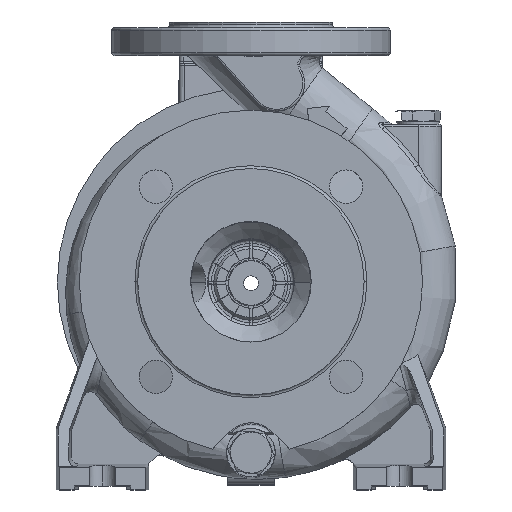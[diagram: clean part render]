
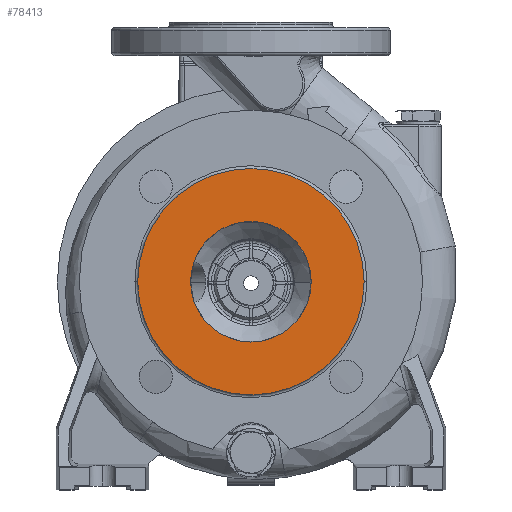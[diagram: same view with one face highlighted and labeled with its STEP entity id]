
A CAD part, top view. The second image highlights one B-rep face of the part: STEP entity #78413.
In plain terms, the highlighted planar face has unit normal (0, 0, 1).
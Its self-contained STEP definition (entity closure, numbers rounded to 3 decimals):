
#2227 = EDGE_CURVE ( 'NONE', #63455, #110201, #133647, .T. ) ;
#2653 = AXIS2_PLACEMENT_3D ( 'NONE', #82972, #14539, #105534 ) ;
#3240 = ORIENTED_EDGE ( 'NONE', *, *, #146895, .T. ) ;
#10608 = DIRECTION ( 'NONE',  ( 0., 0., 1. ) ) ;
#13838 = EDGE_LOOP ( 'NONE', ( #75555, #20204 ) ) ;
#14539 = DIRECTION ( 'NONE',  ( 0., 0., 1. ) ) ;
#17030 = FACE_BOUND ( 'NONE', #13838, .T. ) ;
#20204 = ORIENTED_EDGE ( 'NONE', *, *, #58081, .T. ) ;
#20432 = CARTESIAN_POINT ( 'NONE',  ( 32.5, 0., 80. ) ) ;
#32652 = CIRCLE ( 'NONE', #144515, 61. ) ;
#35437 = VERTEX_POINT ( 'NONE', #52107 ) ;
#42659 = AXIS2_PLACEMENT_3D ( 'NONE', #103201, #92153, #115680 ) ;
#46107 = DIRECTION ( 'NONE',  ( 1., 0., 0. ) ) ;
#48954 = CARTESIAN_POINT ( 'NONE',  ( 0., 0., 80. ) ) ;
#49820 = AXIS2_PLACEMENT_3D ( 'NONE', #48954, #71837, #58962 ) ;
#52107 = CARTESIAN_POINT ( 'NONE',  ( -61., 0., 80. ) ) ;
#54060 = CARTESIAN_POINT ( 'NONE',  ( -32.5, 0., 80. ) ) ;
#58081 = EDGE_CURVE ( 'NONE', #110201, #63455, #125170, .T. ) ;
#58962 = DIRECTION ( 'NONE',  ( 1., 0., 0. ) ) ;
#62502 = VERTEX_POINT ( 'NONE', #116153 ) ;
#63455 = VERTEX_POINT ( 'NONE', #54060 ) ;
#68872 = FACE_OUTER_BOUND ( 'NONE', #95293, .T. ) ;
#71837 = DIRECTION ( 'NONE',  ( 0., 0., -1. ) ) ;
#71939 = DIRECTION ( 'NONE',  ( 0., 0., 1. ) ) ;
#75555 = ORIENTED_EDGE ( 'NONE', *, *, #2227, .T. ) ;
#78413 = ADVANCED_FACE ( 'NONE', ( #17030, #68872 ), #79043, .T. ) ;
#79043 = PLANE ( 'NONE',  #95897 ) ;
#82972 = CARTESIAN_POINT ( 'NONE',  ( 0., 0., 80. ) ) ;
#92153 = DIRECTION ( 'NONE',  ( 0., 0., -1. ) ) ;
#95293 = EDGE_LOOP ( 'NONE', ( #3240, #95682 ) ) ;
#95682 = ORIENTED_EDGE ( 'NONE', *, *, #135061, .T. ) ;
#95897 = AXIS2_PLACEMENT_3D ( 'NONE', #125588, #10608, #46107 ) ;
#95970 = DIRECTION ( 'NONE',  ( 1., 0., 0. ) ) ;
#103201 = CARTESIAN_POINT ( 'NONE',  ( 0., 0., 80. ) ) ;
#105534 = DIRECTION ( 'NONE',  ( 1., 0., 0. ) ) ;
#110201 = VERTEX_POINT ( 'NONE', #20432 ) ;
#115680 = DIRECTION ( 'NONE',  ( 1., 0., 0. ) ) ;
#116153 = CARTESIAN_POINT ( 'NONE',  ( 61., 0., 80. ) ) ;
#125170 = CIRCLE ( 'NONE', #42659, 32.5 ) ;
#125588 = CARTESIAN_POINT ( 'NONE',  ( 0., 28.891, 80. ) ) ;
#129485 = CIRCLE ( 'NONE', #2653, 61. ) ;
#133647 = CIRCLE ( 'NONE', #49820, 32.5 ) ;
#135061 = EDGE_CURVE ( 'NONE', #35437, #62502, #32652, .T. ) ;
#140477 = CARTESIAN_POINT ( 'NONE',  ( 0., 0., 80. ) ) ;
#144515 = AXIS2_PLACEMENT_3D ( 'NONE', #140477, #71939, #95970 ) ;
#146895 = EDGE_CURVE ( 'NONE', #62502, #35437, #129485, .T. ) ;
